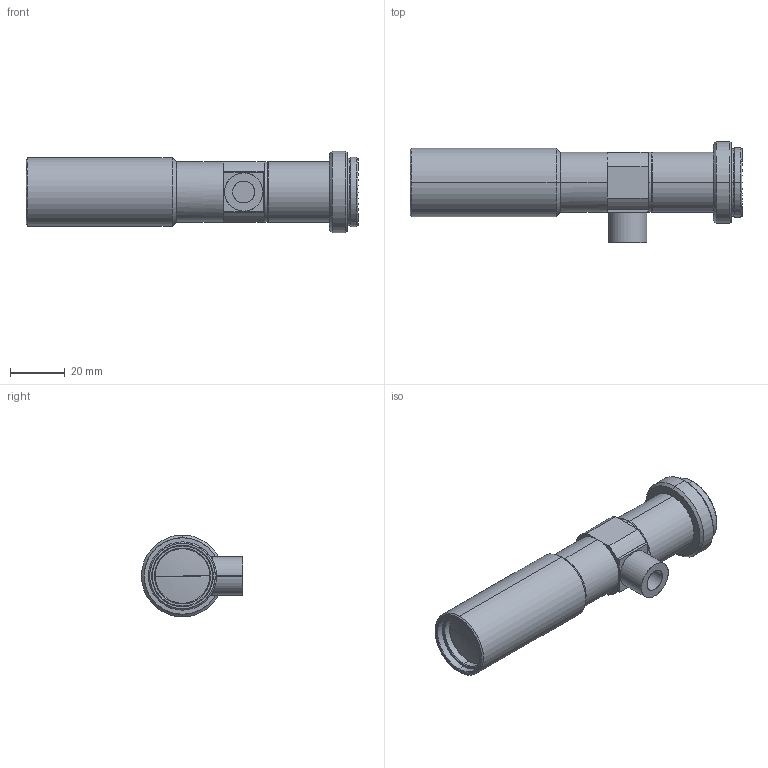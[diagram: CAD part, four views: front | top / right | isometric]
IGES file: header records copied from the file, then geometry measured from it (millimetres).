
Start section: SolidWorks IGES file using analytic representation for surfaces
Bounding box: 121.62 x 37 x 30 mm (x, y, z)
Surface area: 14332.3 mm2 (no closed solid volume)
Topology: 0 solids, 0 shells, 110 faces, 1366 edges, 1365 vertices
Faces by surface type: revolution 78, bspline 32
